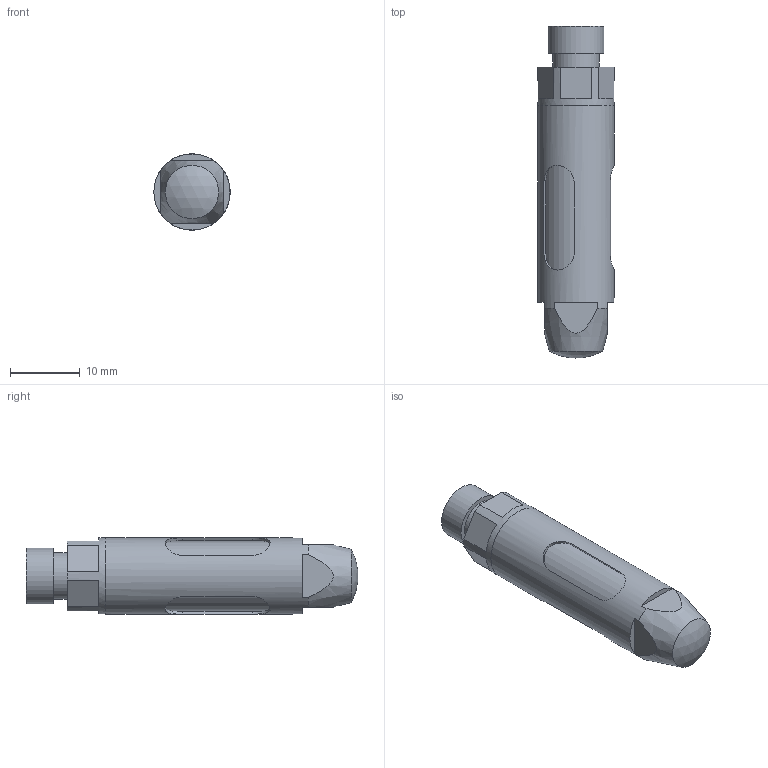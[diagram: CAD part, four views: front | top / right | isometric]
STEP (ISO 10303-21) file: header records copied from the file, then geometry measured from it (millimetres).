
FILE_DESCRIPTION(/* description */ (''),/* implementation_level */ '2;1');
FILE_NAME(/* name */ 'T:\Anwender\Praktikant\Tobias Könemund\Innengreifer\Parametrisch\G-GI011_vereinfacht.stp',/* time_stamp */ '2015-10-30T08:20:20+01:00',/* author */ ('Praktikant'),/* organization */ ('GRIP GmbH'),/* preprocessor_version */ 'ST-DEVELOPER v15.2',/* originating_system */ 'Autodesk Inventor 2014',/* authorisation */ '');
FILE_SCHEMA (('AUTOMOTIVE_DESIGN { 1 0 10303 214 3 1 1 }'));
Length unit declared in the file: millimetre
Products named in the file (3): G-GI011-2.1-1 Dorn_vereinfacht-10; G-GI011-1.1-1 Hülse_vereinfacht-09; Baugruppe_vereinfacht
Bounding box: 10.9 x 47.46 x 10.9 mm (x, y, z)
Volume: 3503 mm3; surface area: 3320.1 mm2
Topology: 2 solids, 2 shells, 49 faces, 125 edges, 83 vertices
Faces by surface type: plane 33, cylinder 13, cone 2, sphere 1
Full cylindrical faces by diameter (mm): 5 x1, 6.6 x1, 8 x1, 9.9 x1, 10.1 x1, 10.9 x2
Entity records: 1640 total; most frequent: CARTESIAN_POINT 452, DIRECTION 234, ORIENTED_EDGE 218, EDGE_CURVE 109, AXIS2_PLACEMENT_3D 87, VERTEX_POINT 77, EDGE_LOOP 68, LINE 60
